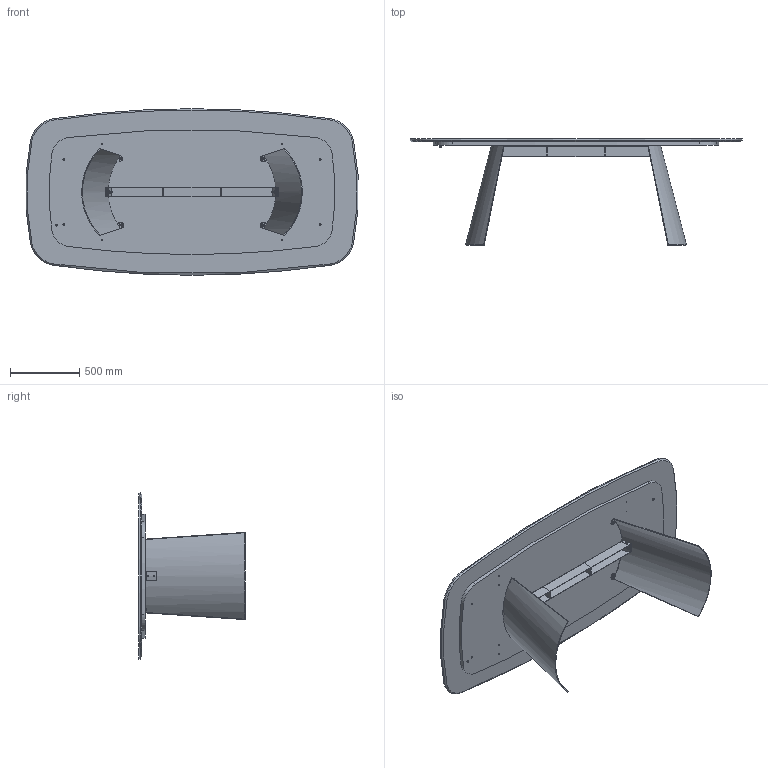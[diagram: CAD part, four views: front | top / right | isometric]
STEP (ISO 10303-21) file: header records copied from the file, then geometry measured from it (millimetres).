
FILE_DESCRIPTION (( 'STEP AP203' ), '1' );
FILE_NAME ('DN43M.STEP', '2024-08-07T15:08:50', ( '' ), ( '' ), 'SwSTEP 2.0', 'SolidWorks 2022', '' );
FILE_SCHEMA (( 'CONFIG_CONTROL_DESIGN' ));
Length unit declared in the file: millimetre
Products named in the file (15): M4XMXX-00-Piani Sagomati in marmo_2400x1200; DNB300000_02-02-RISCONTRO STANGONE CENTRALE; CMP000000N001-01-PIASTRINA SUPPORTO CRISTALLO; DN43M; M4X-00-Piani Sagomati in marmo_2400 x 1200; feltro Ø12x3; DNBX00000-01-DORIAN TRAVERSO LXXXX PER TAVOLO LX00_L.1250; rondella M8_8X16; DNB400000-02-ASSIEME STRUTTURA COMPLETA_L.1250; GRANO M8X35_barra; DNB300000_01-02-GAMBA DORIAN; DNB300000_03-02-PIASTRINA; nut_M8_M8; SDNB300000-02-GAMBA X TRASP; TRUXXXXXX-00-NOBILITATO GR CON SUPP TRUCIOLARE SP. 25_TRU00007_2100x900
Assembly tree (34 placements, depth 4):
  DN43M
    M4XMXX-00-Piani Sagomati in marmo_2400x1200
      M4X-00-Piani Sagomati in marmo_2400 x 1200
      TRUXXXXXX-00-NOBILITATO GR CON SUPP TRUCIOLARE SP. 25_TRU00007_2100x900
    DNB400000-02-ASSIEME STRUTTURA COMPLETA_L.1250
      SDNB300000-02-GAMBA X TRASP  x2
        DNB300000_01-02-GAMBA DORIAN
        DNB300000_02-02-RISCONTRO STANGONE CENTRALE
        DNB300000_03-02-PIASTRINA
      DNBX00000-01-DORIAN TRAVERSO LXXXX PER TAVOLO LX00_L.1250
    CMP000000N001-01-PIASTRINA SUPPORTO CRISTALLO  x3
    nut_M8_M8  x8
    GRANO M8X35_barra  x4
    rondella M8_8X16  x4
    feltro Ø12x3  x4
Bounding box: 2391.9 x 765 x 1200 mm (x, y, z)
Volume: 101581309.6 mm3; surface area: 11530335.5 mm2
Topology: 38 solids, 38 shells, 639 faces, 1525 edges, 946 vertices
Faces by surface type: plane 238, cylinder 204, cone 147, torus 32, bspline 18
Entity records: 12937 total; most frequent: CARTESIAN_POINT 2459, DIRECTION 1816, ORIENTED_EDGE 1662, EDGE_CURVE 831, AXIS2_PLACEMENT_3D 665, VERTEX_POINT 536, VECTOR 486, LINE 486
